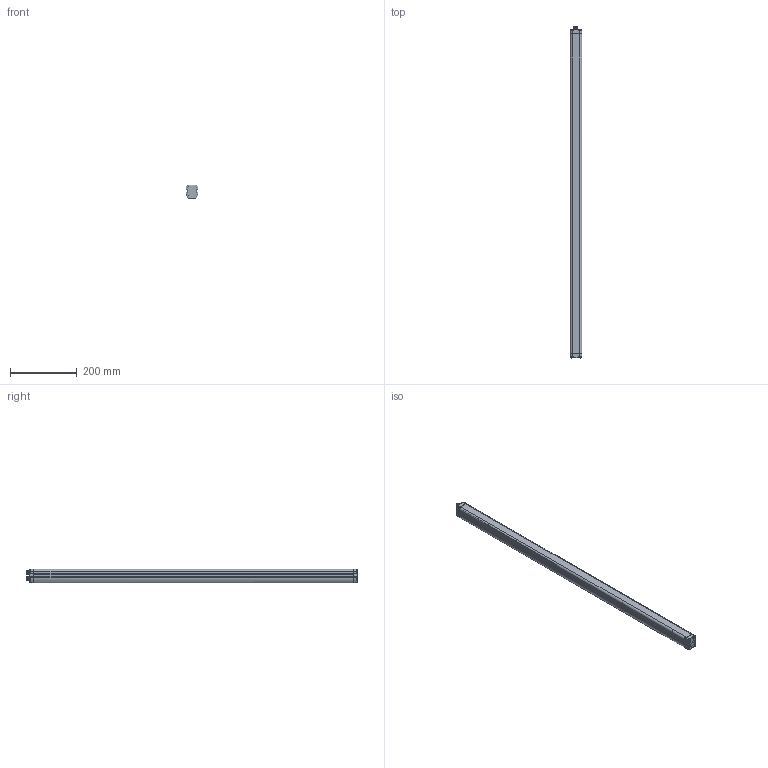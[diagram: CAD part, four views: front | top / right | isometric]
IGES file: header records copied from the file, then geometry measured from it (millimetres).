
Start section:  PTC IGES file: 2009971
Global section: file name: 2009971; native system: Pro/ENGINEER by Parametric Technology Corporation; preprocessor: 2011040; author: rink; organization: Unknown; date: 20120130.122540; units: millimetre
Bounding box: 35 x 991.58 x 40 mm (x, y, z)
Surface area: 206469.1 mm2 (no closed solid volume)
Topology: 0 solids, 0 shells, 2508 faces, 13230 edges, 13056 vertices
Faces by surface type: revolution 1142, bspline 840, extrusion 526
